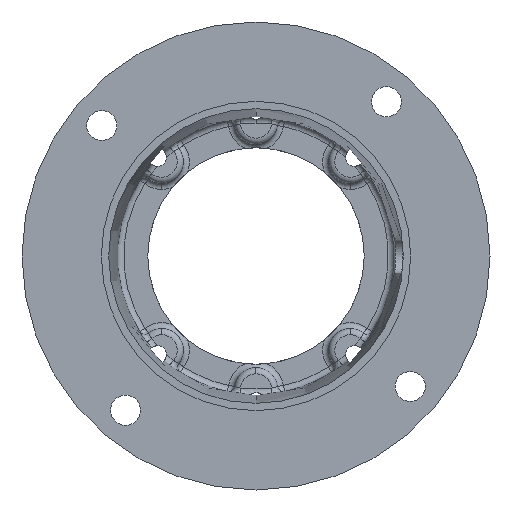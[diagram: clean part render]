
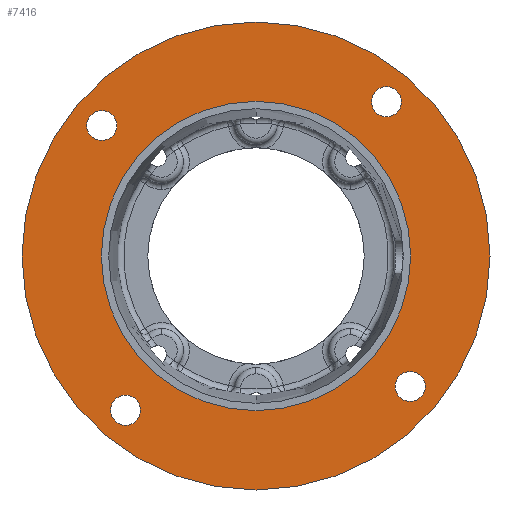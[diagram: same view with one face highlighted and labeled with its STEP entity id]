
A CAD part, front view. The second image highlights one B-rep face of the part: STEP entity #7416.
In plain terms, the highlighted planar face has unit normal (0, -1, 0).
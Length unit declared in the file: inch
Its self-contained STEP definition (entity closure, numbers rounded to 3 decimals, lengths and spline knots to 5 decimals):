
#108 = AXIS2_PLACEMENT_3D ( 'NONE', #4999, #1069, #5657 ) ;
#109 = DIRECTION ( 'NONE',  ( 0., -1., 0. ) ) ;
#348 = ORIENTED_EDGE ( 'NONE', *, *, #8062, .F. ) ;
#362 = DIRECTION ( 'NONE',  ( 0., 0., -1. ) ) ;
#530 = CARTESIAN_POINT ( 'NONE',  ( 0., 0.237, 0. ) ) ;
#554 = AXIS2_PLACEMENT_3D ( 'NONE', #8211, #4278, #362 ) ;
#642 = ORIENTED_EDGE ( 'NONE', *, *, #1252, .F. ) ;
#734 = EDGE_CURVE ( 'NONE', #5076, #8255, #6500, .T. ) ;
#863 = DIRECTION ( 'NONE',  ( 0., -1., 0. ) ) ;
#970 = CIRCLE ( 'NONE', #2039, 0.21875 ) ;
#992 = FACE_OUTER_BOUND ( 'NONE', #4594, .T. ) ;
#1069 = DIRECTION ( 'NONE',  ( 0., -1., 0. ) ) ;
#1164 = AXIS2_PLACEMENT_3D ( 'NONE', #7101, #3182, #7769 ) ;
#1179 = DIRECTION ( 'NONE',  ( 0., 0., -1. ) ) ;
#1195 = FACE_BOUND ( 'NONE', #1692, .T. ) ;
#1252 = EDGE_CURVE ( 'NONE', #4610, #5842, #7743, .T. ) ;
#1275 = EDGE_CURVE ( 'NONE', #7492, #3560, #970, .T. ) ;
#1285 = ORIENTED_EDGE ( 'NONE', *, *, #734, .T. ) ;
#1372 = VERTEX_POINT ( 'NONE', #5273 ) ;
#1433 = CARTESIAN_POINT ( 'NONE',  ( -1.89861, 0.237, -2.24475 ) ) ;
#1482 = CARTESIAN_POINT ( 'NONE',  ( 0., 0.237, 0. ) ) ;
#1483 = VERTEX_POINT ( 'NONE', #6953 ) ;
#1662 = EDGE_CURVE ( 'NONE', #7364, #3715, #7656, .T. ) ;
#1692 = EDGE_LOOP ( 'NONE', ( #7683, #2550 ) ) ;
#1714 = AXIS2_PLACEMENT_3D ( 'NONE', #7224, #3295, #7897 ) ;
#1830 = CIRCLE ( 'NONE', #554, 0.21875 ) ;
#1908 = EDGE_LOOP ( 'NONE', ( #5360, #5919 ) ) ;
#2009 = CIRCLE ( 'NONE', #4362, 3.405 ) ;
#2039 = AXIS2_PLACEMENT_3D ( 'NONE', #6469, #2540, #7125 ) ;
#2091 = DIRECTION ( 'NONE',  ( 0., 0., -1. ) ) ;
#2154 = DIRECTION ( 'NONE',  ( 0., 0., -1. ) ) ;
#2161 = AXIS2_PLACEMENT_3D ( 'NONE', #1433, #6005, #2091 ) ;
#2295 = AXIS2_PLACEMENT_3D ( 'NONE', #3336, #7930, #4002 ) ;
#2540 = DIRECTION ( 'NONE',  ( 0., -1., 0. ) ) ;
#2550 = ORIENTED_EDGE ( 'NONE', *, *, #2815, .F. ) ;
#2551 = ORIENTED_EDGE ( 'NONE', *, *, #7994, .T. ) ;
#2631 = CARTESIAN_POINT ( 'NONE',  ( 2.24475, 0.237, -2.11736 ) ) ;
#2661 = ORIENTED_EDGE ( 'NONE', *, *, #1275, .F. ) ;
#2707 = FACE_BOUND ( 'NONE', #7214, .T. ) ;
#2715 = AXIS2_PLACEMENT_3D ( 'NONE', #4030, #109, #4690 ) ;
#2794 = PLANE ( 'NONE',  #7750 ) ;
#2807 = AXIS2_PLACEMENT_3D ( 'NONE', #530, #5113, #1179 ) ;
#2815 = EDGE_CURVE ( 'NONE', #3715, #7364, #5310, .T. ) ;
#2836 = DIRECTION ( 'NONE',  ( 0., -1., 0. ) ) ;
#2879 = DIRECTION ( 'NONE',  ( 0., -1., 0. ) ) ;
#2914 = CARTESIAN_POINT ( 'NONE',  ( -2.24475, 0.237, 2.11736 ) ) ;
#3124 = CARTESIAN_POINT ( 'NONE',  ( -1.89861, 0.237, -2.026 ) ) ;
#3136 = FACE_BOUND ( 'NONE', #5485, .T. ) ;
#3182 = DIRECTION ( 'NONE',  ( 0., -1., 0. ) ) ;
#3240 = CARTESIAN_POINT ( 'NONE',  ( 0., 0.237, 2.2505 ) ) ;
#3295 = DIRECTION ( 'NONE',  ( 0., -1., 0. ) ) ;
#3336 = CARTESIAN_POINT ( 'NONE',  ( 1.89861, 0.237, 2.24475 ) ) ;
#3465 = CARTESIAN_POINT ( 'NONE',  ( 0., 0.237, 0. ) ) ;
#3560 = VERTEX_POINT ( 'NONE', #7290 ) ;
#3715 = VERTEX_POINT ( 'NONE', #7472 ) ;
#3867 = CARTESIAN_POINT ( 'NONE',  ( 0., 0.237, -3.405 ) ) ;
#3996 = VERTEX_POINT ( 'NONE', #3124 ) ;
#4002 = DIRECTION ( 'NONE',  ( 0., 0., -1. ) ) ;
#4030 = CARTESIAN_POINT ( 'NONE',  ( -2.24475, 0.237, 1.89861 ) ) ;
#4123 = ORIENTED_EDGE ( 'NONE', *, *, #5469, .F. ) ;
#4250 = AXIS2_PLACEMENT_3D ( 'NONE', #6765, #2836, #7428 ) ;
#4278 = DIRECTION ( 'NONE',  ( 0., -1., 0. ) ) ;
#4362 = AXIS2_PLACEMENT_3D ( 'NONE', #1482, #6064, #2154 ) ;
#4473 = FACE_BOUND ( 'NONE', #1908, .T. ) ;
#4484 = CARTESIAN_POINT ( 'NONE',  ( 0., 0.237, 3.405 ) ) ;
#4594 = EDGE_LOOP ( 'NONE', ( #2551, #1285 ) ) ;
#4610 = VERTEX_POINT ( 'NONE', #2914 ) ;
#4690 = DIRECTION ( 'NONE',  ( 0., 0., -1. ) ) ;
#4999 = CARTESIAN_POINT ( 'NONE',  ( 0., 0.237, 0. ) ) ;
#5076 = VERTEX_POINT ( 'NONE', #4484 ) ;
#5113 = DIRECTION ( 'NONE',  ( 0., -1., 0. ) ) ;
#5123 = ORIENTED_EDGE ( 'NONE', *, *, #5500, .F. ) ;
#5251 = AXIS2_PLACEMENT_3D ( 'NONE', #6806, #2879, #7474 ) ;
#5273 = CARTESIAN_POINT ( 'NONE',  ( 0., 0.237, -2.2505 ) ) ;
#5310 = CIRCLE ( 'NONE', #4250, 0.21875 ) ;
#5360 = ORIENTED_EDGE ( 'NONE', *, *, #5454, .F. ) ;
#5454 = EDGE_CURVE ( 'NONE', #1483, #3996, #1830, .T. ) ;
#5456 = DIRECTION ( 'NONE',  ( 0., 0., -1. ) ) ;
#5469 = EDGE_CURVE ( 'NONE', #3560, #7492, #6828, .T. ) ;
#5485 = EDGE_LOOP ( 'NONE', ( #2661, #4123 ) ) ;
#5500 = EDGE_CURVE ( 'NONE', #5842, #4610, #6620, .T. ) ;
#5657 = DIRECTION ( 'NONE',  ( 0., 0., -1. ) ) ;
#5807 = CIRCLE ( 'NONE', #108, 2.2505 ) ;
#5842 = VERTEX_POINT ( 'NONE', #8427 ) ;
#5919 = ORIENTED_EDGE ( 'NONE', *, *, #7945, .F. ) ;
#6005 = DIRECTION ( 'NONE',  ( 0., -1., 0. ) ) ;
#6064 = DIRECTION ( 'NONE',  ( 0., -1., 0. ) ) ;
#6212 = FACE_BOUND ( 'NONE', #7804, .T. ) ;
#6309 = CARTESIAN_POINT ( 'NONE',  ( 1.89861, 0.237, 2.026 ) ) ;
#6469 = CARTESIAN_POINT ( 'NONE',  ( 1.89861, 0.237, 2.24475 ) ) ;
#6500 = CIRCLE ( 'NONE', #2807, 3.405 ) ;
#6620 = CIRCLE ( 'NONE', #2715, 0.21875 ) ;
#6765 = CARTESIAN_POINT ( 'NONE',  ( 2.24475, 0.237, -1.89861 ) ) ;
#6799 = ORIENTED_EDGE ( 'NONE', *, *, #7480, .F. ) ;
#6806 = CARTESIAN_POINT ( 'NONE',  ( 0., 0.237, 0. ) ) ;
#6808 = CIRCLE ( 'NONE', #5251, 2.2505 ) ;
#6828 = CIRCLE ( 'NONE', #2295, 0.21875 ) ;
#6953 = CARTESIAN_POINT ( 'NONE',  ( -1.89861, 0.237, -2.4635 ) ) ;
#7101 = CARTESIAN_POINT ( 'NONE',  ( -2.24475, 0.237, 1.89861 ) ) ;
#7125 = DIRECTION ( 'NONE',  ( 0., 0., -1. ) ) ;
#7214 = EDGE_LOOP ( 'NONE', ( #6799, #348 ) ) ;
#7224 = CARTESIAN_POINT ( 'NONE',  ( 2.24475, 0.237, -1.89861 ) ) ;
#7290 = CARTESIAN_POINT ( 'NONE',  ( 1.89861, 0.237, 2.4635 ) ) ;
#7364 = VERTEX_POINT ( 'NONE', #2631 ) ;
#7416 = ADVANCED_FACE ( 'NONE', ( #3136, #6212, #1195, #4473, #2707, #992 ), #2794, .T. ) ;
#7428 = DIRECTION ( 'NONE',  ( 0., 0., -1. ) ) ;
#7430 = CIRCLE ( 'NONE', #2161, 0.21875 ) ;
#7472 = CARTESIAN_POINT ( 'NONE',  ( 2.24475, 0.237, -1.67986 ) ) ;
#7474 = DIRECTION ( 'NONE',  ( 0., 0., -1. ) ) ;
#7480 = EDGE_CURVE ( 'NONE', #1372, #7565, #5807, .T. ) ;
#7492 = VERTEX_POINT ( 'NONE', #6309 ) ;
#7565 = VERTEX_POINT ( 'NONE', #3240 ) ;
#7656 = CIRCLE ( 'NONE', #1714, 0.21875 ) ;
#7683 = ORIENTED_EDGE ( 'NONE', *, *, #1662, .F. ) ;
#7743 = CIRCLE ( 'NONE', #1164, 0.21875 ) ;
#7750 = AXIS2_PLACEMENT_3D ( 'NONE', #3465, #863, #5456 ) ;
#7769 = DIRECTION ( 'NONE',  ( 0., 0., -1. ) ) ;
#7804 = EDGE_LOOP ( 'NONE', ( #5123, #642 ) ) ;
#7897 = DIRECTION ( 'NONE',  ( 0., 0., -1. ) ) ;
#7930 = DIRECTION ( 'NONE',  ( 0., -1., 0. ) ) ;
#7945 = EDGE_CURVE ( 'NONE', #3996, #1483, #7430, .T. ) ;
#7994 = EDGE_CURVE ( 'NONE', #8255, #5076, #2009, .T. ) ;
#8062 = EDGE_CURVE ( 'NONE', #7565, #1372, #6808, .T. ) ;
#8211 = CARTESIAN_POINT ( 'NONE',  ( -1.89861, 0.237, -2.24475 ) ) ;
#8255 = VERTEX_POINT ( 'NONE', #3867 ) ;
#8427 = CARTESIAN_POINT ( 'NONE',  ( -2.24475, 0.237, 1.67986 ) ) ;
